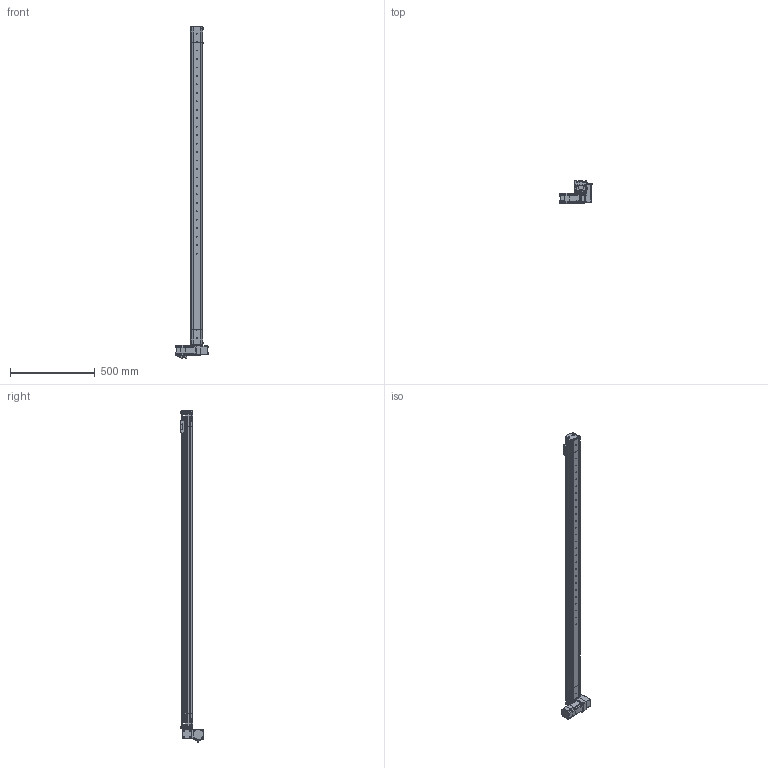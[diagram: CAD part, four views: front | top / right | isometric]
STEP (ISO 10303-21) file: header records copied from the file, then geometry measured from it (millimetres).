
FILE_DESCRIPTION (( 'STEP AP214' ), '1' );
FILE_NAME ('S07 TBn LU S1700.STEP', '2010-06-29T12:17:57', ( 'Conseil Régional Haute-Normandie' ), ( 'Conseil Régional Haute-Normandie' ), 'SwSTEP 2.0', 'SolidWorks 2010', '' );
FILE_SCHEMA (( 'AUTOMOTIVE_DESIGN' ));
Length unit declared in the file: millimetre
Products named in the file (41): P4_Default; Axe 60BLDC_Default; vis M5 L16_Default; Chariot; Conecteur 60BLDC_Default; couroie tail_Default; VisM3_Default; Conecteur2 60BLDC_Default; guide; CHariot_Default; Cvis M5 L30_Default; vis M5 L12_Default; Poulie_Default; T皻e de poulie_Default; Vis M5 L16-2_Default; plaque de bout_Default; corp tail TB_Default; S07 TB tail (78)_Default; couvercle tail TB; Course C L1700_Default; S07 TBn LU S1700; couvercle S07 course 1700 ; Couroie  course 1700_Default; Corp S07 course 1700_Default; plaque de bout LU_Default; corp moteur TB(146)_Default; S07 LU(146)_Default; Poulie head_Default; cache t皻e axe_Default; couvercle moteur S07 TB; Pièce5^S07 LU(146); vis M5 L5_Default; cache t皻e_Default; renvoi LU_Default; Plaque racord_Default; Couroie t皻e_Default; P3 90A_Default; P2 90A_Default; P1_Default; GMB 60 90 310_Default
Assembly tree (80 placements, depth 4):
  S07 TBn LU S1700
    S07 TB tail (78)_Default
      vis M5 L12_Default  x10
      couvercle tail TB
      plaque de bout_Default
      couroie tail_Default
      Poulie_Default
        Poulie_Default
        T皻e de poulie_Default
      corp tail TB_Default
    S07 LU(146)_Default
      corp moteur TB(146)_Default
      Vis M5 L16-2_Default  x8
      vis M5 L12_Default  x6
      vis M5 L5_Default  x6
      couvercle moteur S07 TB
      cache t皻e_Default  x2
      Plaque racord_Default
      GMB 60 90 310_Default
        P2 90A_Default
        P1_Default
        VisM3_Default  x12
        P3 90A_Default
        P4_Default
        Conecteur 60BLDC_Default
        Axe 60BLDC_Default
        Conecteur2 60BLDC_Default
      Poulie head_Default
      Cvis M5 L30_Default  x2
      cache t皻e axe_Default
      renvoi LU_Default
      Couroie t皻e_Default
      plaque de bout LU_Default
    CHariot_Default
      guide
      vis M5 L16_Default  x2
      Chariot
    Course C L1700_Default
      Corp S07 course 1700_Default
      couvercle S07 course 1700 
      Couroie  course 1700_Default
  Pièce5^S07 LU(146)
Bounding box: 190.2 x 134.7 x 1962 mm (x, y, z)
Volume: 3736790.1 mm3; surface area: 1647070.3 mm2
Topology: 102 solids, 102 shells, 3950 faces, 9834 edges, 6353 vertices
Faces by surface type: plane 2239, cylinder 781, bspline 677, cone 125, torus 124, sphere 4
Entity records: 168029 total; most frequent: CARTESIAN_POINT 75331, ORIENTED_EDGE 15580, DIRECTION 12459, EDGE_CURVE 7790, VERTEX_POINT 5141, VECTOR 5065, LINE 5065, AXIS2_PLACEMENT_3D 3697
